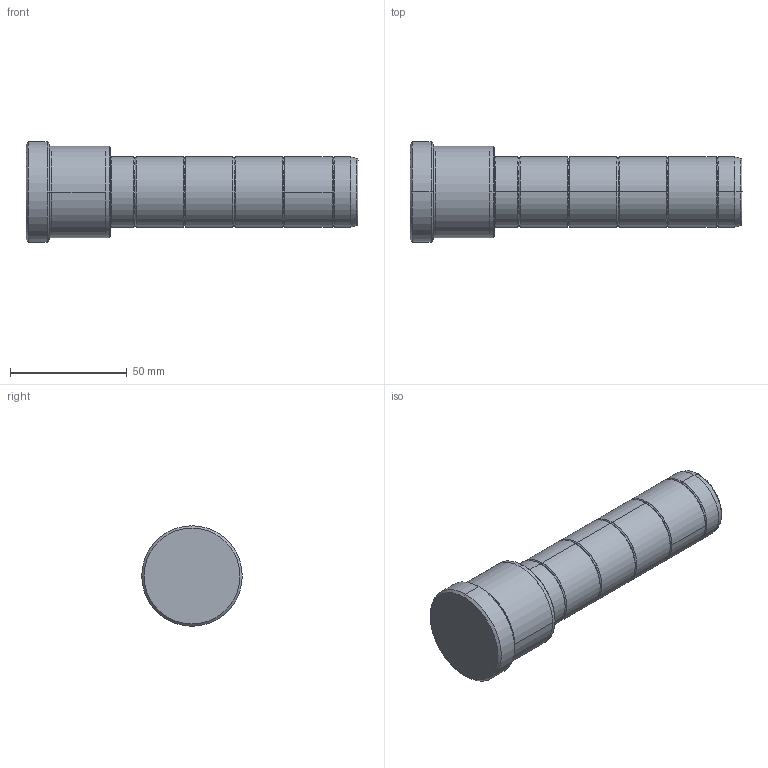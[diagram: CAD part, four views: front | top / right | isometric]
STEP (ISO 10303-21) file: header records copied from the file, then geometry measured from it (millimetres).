
FILE_DESCRIPTION (( 'STEP AP214' ), '1' );
FILE_NAME ('D02_30x36x106.step', '2011-12-26T21:17:55', ( 'Dell' ), ( '' ), 'SwSTEP 2.0', 'SolidWorks 2010', '' );
FILE_SCHEMA (( 'AUTOMOTIVE_DESIGN' ));
Length unit declared in the file: millimetre
Products named in the file (1): D02_30x36x106
Bounding box: 142 x 43 x 43 mm (x, y, z)
Volume: 120093.1 mm3; surface area: 17379.1 mm2
Topology: 1 solids, 1 shells, 60 faces, 124 edges, 70 vertices
Faces by surface type: bspline 24, cylinder 20, cone 10, plane 6
Entity records: 1870 total; most frequent: CARTESIAN_POINT 705, ORIENTED_EDGE 248, DIRECTION 234, EDGE_CURVE 124, AXIS2_PLACEMENT_3D 103, VERTEX_POINT 70, CIRCLE 66, EDGE_LOOP 64
